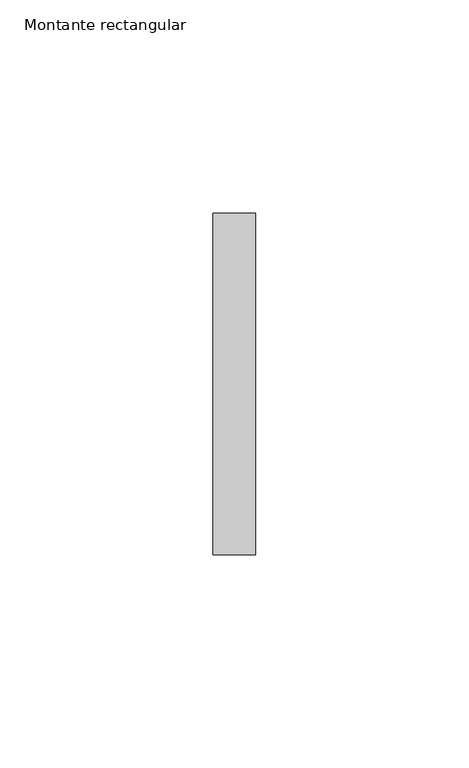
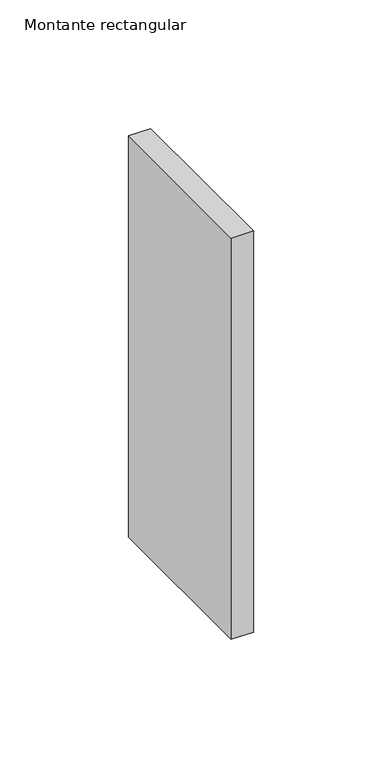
"""IFC4 building model written with IfcOpenShell, lengths in millimetres: member geometry, Montante rectangular : Junta de paves."""

from ifc_helpers import new_model, si_unit, frame, origin, place, context, project, spatial, polyline, outline, extrude, source, transform, mapped, element, save


def montante_rectangular_327b2392(model_context):
    return source(origin(), model_context, "Body", "SweptSolid", [
        extrude(outline(polyline([(5.0, 40.0), (5.0, -40.0), (-5.0, -40.0), (-5.0, 40.0), (5.0, 40.0)])), frame((0.0, 0.0, -190.5555556), z_axis=(0.0, 0.0, 1.0), x_axis=(1.0, 0.0, 0.0)), (0.0, 0.0, 1.0), 190.5555556),
    ])


if __name__ == "__main__":
    model = new_model("IFC4")
    model_context = context("Model", 3, world=origin())
    ifc_project = project(units=[si_unit("LENGTHUNIT", "METRE", prefix="MILLI")], contexts=[model_context])
    site = spatial("IfcSite", under=ifc_project)
    building = spatial("IfcBuilding", under=site)
    placement = place(None, origin())
    montante_rectangular_shape = montante_rectangular_327b2392(model_context)
    element("IfcMember", 1, ObjectType="Montante rectangular : Junta de paves", at=placement, inside=building, context=model_context, shape_type="MappedRepresentation", body=[
        mapped(montante_rectangular_shape, transform((0.0, 0.0, 0.0), x_axis=(1.0, 0.0, 0.0), y_axis=(0.0, 1.0, 0.0), z_axis=(0.0, 0.0, 1.0))),
    ])
    save(model, "model.ifc")
